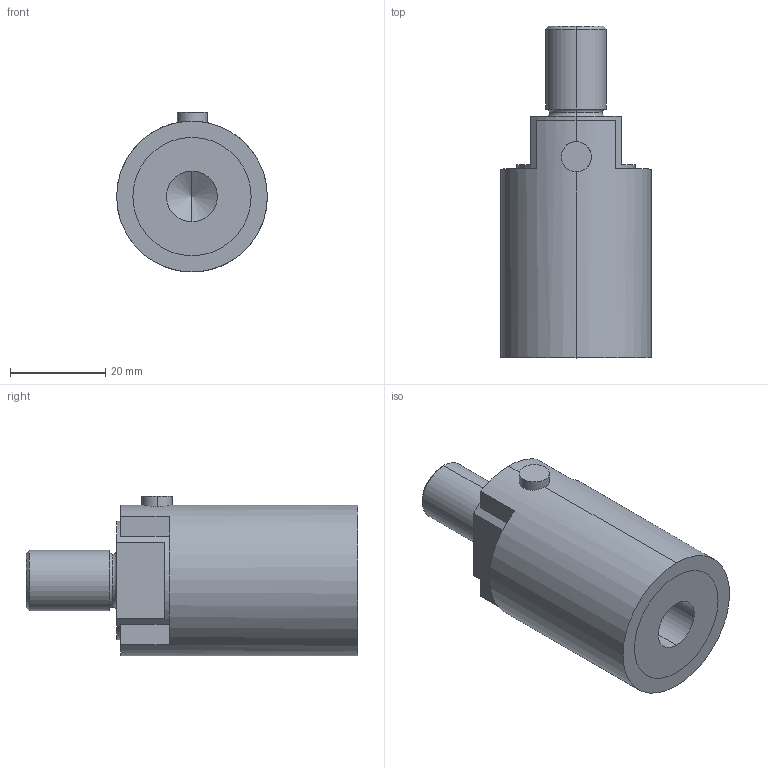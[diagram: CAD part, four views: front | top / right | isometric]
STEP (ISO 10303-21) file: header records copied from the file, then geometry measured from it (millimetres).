
FILE_DESCRIPTION (( 'STEP AP203' ), '1' );
FILE_NAME ('SS1633-2KLB Assembly.STEP', '2022-12-08T19:06:13', ( '' ), ( '' ), 'SwSTEP 2.0', 'SolidWorks 2008', '' );
FILE_SCHEMA (( 'CONFIG_CONTROL_DESIGN' ));
Length unit declared in the file: inch
Products named in the file (1): SS1633-2KLB Assembly
Bounding box: 31.75 x 69.85 x 33.67 mm (x, y, z)
Volume: 38058.1 mm3; surface area: 14972.4 mm2
Topology: 2 solids, 2 shells, 37 faces, 91 edges, 57 vertices
Faces by surface type: plane 17, cylinder 12, torus 4, cone 4
Entity records: 1228 total; most frequent: CARTESIAN_POINT 248, DIRECTION 205, ORIENTED_EDGE 178, EDGE_CURVE 89, AXIS2_PLACEMENT_3D 82, VERTEX_POINT 57, CIRCLE 44, VECTOR 41
